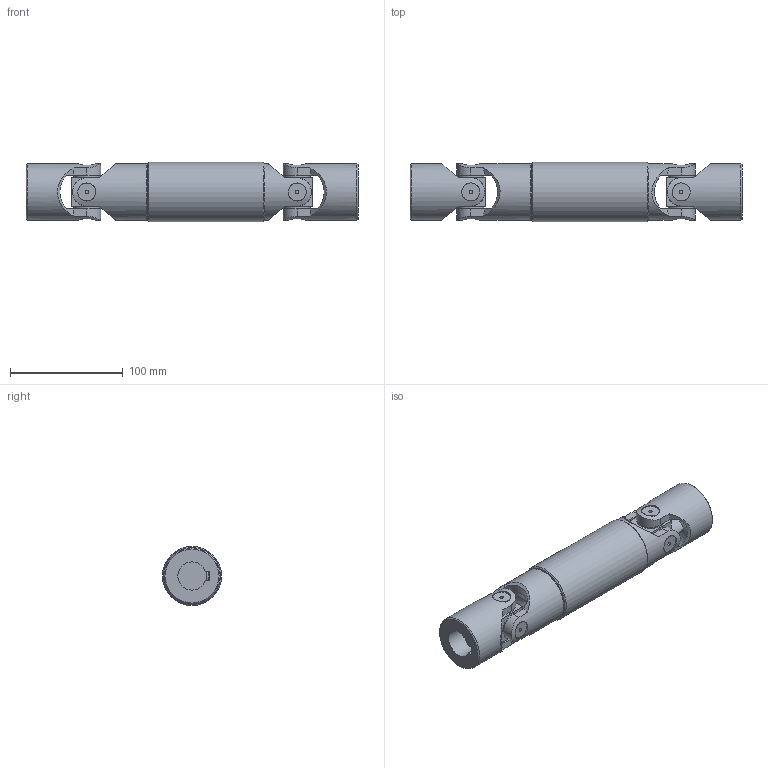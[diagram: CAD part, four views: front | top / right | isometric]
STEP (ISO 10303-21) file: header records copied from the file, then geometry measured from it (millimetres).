
FILE_DESCRIPTION(/* description */ (''),/* implementation_level */ '2;1');
FILE_NAME(/* name */ '\\SRV2016\Societa\Stefano\Disegni 3D\00Catalogo 3D\03Trasmissioni standard GA\5GA10\5GA10_SG0A2510.stp',/* time_stamp */ '2022-03-15T16:17:01+01:00',/* author */ ('acquisti'),/* organization */ (''),/* preprocessor_version */ 'ST-DEVELOPER v15.6',/* originating_system */ 'Autodesk Inventor 2015',/* authorisation */ '');
FILE_SCHEMA (('AUTOMOTIVE_DESIGN { 1 0 10303 214 3 1 1 }'));
Length unit declared in the file: millimetre
Products named in the file (5): 5G MOC; 5G SFE; 5GA10 LAI; 5GA10 LCI; 5GA10_SG0A2510
Assembly tree (6 placements, depth 2):
  5GA10_SG0A2510
    5G MOC  x2
    5G SFE  x2
    5GA10 LAI
    5GA10 LCI
Bounding box: 295 x 52.5 x 52.5 mm (x, y, z)
Volume: 428797.3 mm3; surface area: 101698.9 mm2
Topology: 6 solids, 6 shells, 204 faces, 513 edges, 345 vertices
Faces by surface type: plane 108, cylinder 68, cone 24, torus 4
Full cylindrical faces by diameter (mm): 3 x8, 16 x8, 23 x8, 28 x1, 32.4 x1, 45 x1, 50 x4, 52.5 x1
Entity records: 5370 total; most frequent: CARTESIAN_POINT 1605, DIRECTION 751, ORIENTED_EDGE 742, EDGE_CURVE 371, AXIS2_PLACEMENT_3D 299, VERTEX_POINT 269, EDGE_LOOP 210, FACE_OUTER_BOUND 158
